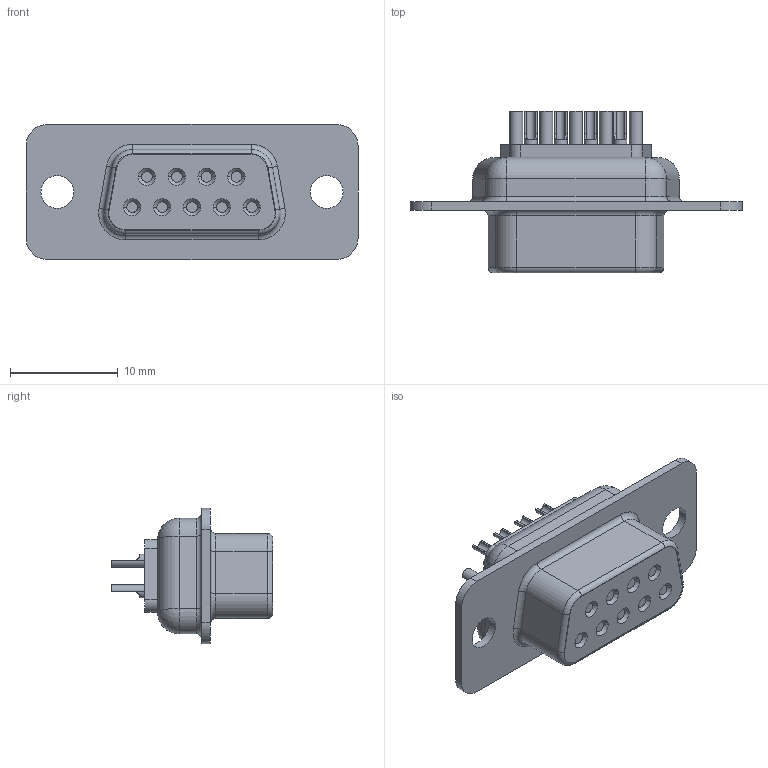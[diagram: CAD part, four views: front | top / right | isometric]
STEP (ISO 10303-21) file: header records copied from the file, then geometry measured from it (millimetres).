
FILE_DESCRIPTION(/* description */ (''),/* implementation_level */ '2;1');
FILE_NAME(/* name */ '100630886ugm000_a.stp',/* time_stamp */ '2015-07-20T03:49:14+02:00',/* author */ (''),/* organization */ (''),/* preprocessor_version */ 'ST-DEVELOPER v15',/* originating_system */ 'SIEMENS PLM Software NX 8.5',/* authorisation */ '');
FILE_SCHEMA (('AUTOMOTIVE_DESIGN { 1 0 10303 214 3 1 1 1 }'));
Length unit declared in the file: millimetre
Products named in the file (1): 100630886ugm000_a
Bounding box: 30.81 x 15 x 12.55 mm (x, y, z)
Volume: 1694.4 mm3; surface area: 2826.5 mm2
Topology: 1 solids, 1 shells, 565 faces, 1629 edges, 1070 vertices
Faces by surface type: cylinder 220, plane 201, cone 90, torus 20, bspline 18, sphere 16
Entity records: 22513 total; most frequent: CARTESIAN_POINT 7787, ORIENTED_EDGE 3258, DIRECTION 2977, EDGE_CURVE 1629, AXIS2_PLACEMENT_3D 1209, VERTEX_POINT 1068, EDGE_LOOP 609, CIRCLE 589
